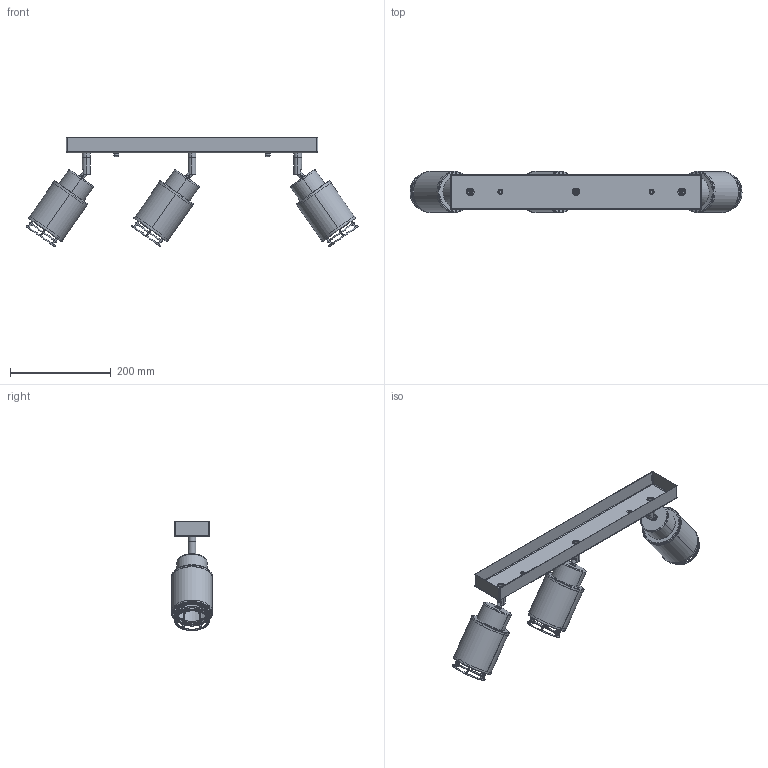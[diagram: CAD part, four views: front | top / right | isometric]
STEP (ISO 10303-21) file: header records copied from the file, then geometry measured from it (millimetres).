
FILE_DESCRIPTION(/* description */ (''),/* implementation_level */ '2;1');
FILE_NAME(/* name */ 'VT-89015.stp',/* time_stamp */ '2025-10-08T10:21:27+08:00',/* author */ (''),/* organization */ (''),/* preprocessor_version */ 'ST-DEVELOPER v16',/* originating_system */ 'SIEMENS PLM Software NX 10.0',/* authorisation */ '');
FILE_SCHEMA (('AP203_CONFIGURATION_CONTROLLED_3D_DESIGN_OF_MECHANICAL_PARTS_AND_ASSEMBLIES_MIM_LF { 1 0 10303 403 2 1 2}'));
Length unit declared in the file: millimetre
Products named in the file (1): 110081E0Dse7e
Bounding box: 659.26 x 82 x 216.37 mm (x, y, z)
Volume: 332473.3 mm3; surface area: 476006.4 mm2
Topology: 66 solids, 66 shells, 615 faces, 1251 edges, 719 vertices
Faces by surface type: cylinder 197, plane 171, bspline 148, torus 36, sphere 33, cone 30
Entity records: 24506 total; most frequent: CARTESIAN_POINT 12083, DIRECTION 2668, ORIENTED_EDGE 2458, EDGE_CURVE 1229, AXIS2_PLACEMENT_3D 1175, VERTEX_POINT 719, CIRCLE 707, EDGE_LOOP 664
